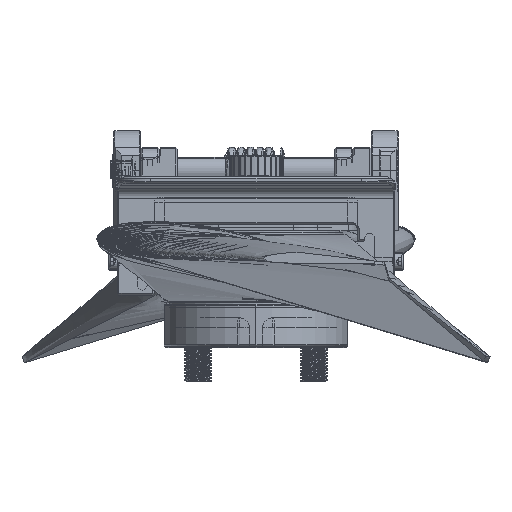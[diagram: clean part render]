
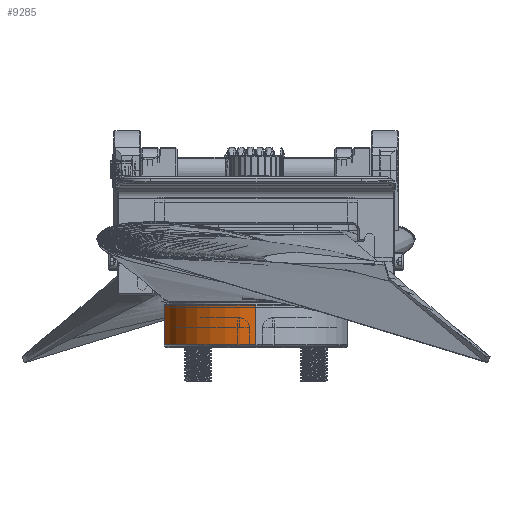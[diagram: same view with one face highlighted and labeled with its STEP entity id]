
A CAD part, left-side view. The second image highlights one B-rep face of the part: STEP entity #9285.
In plain terms, the highlighted cylindrical face has radius 27.5 mm (diameter 55 mm), a partial arc.
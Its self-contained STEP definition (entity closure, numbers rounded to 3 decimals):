
#2472 = CARTESIAN_POINT ( 'NONE',  ( -52.5, 27.5, -12. ) ) ;
#6003 = CARTESIAN_POINT ( 'NONE',  ( -80., 0., -0.3 ) ) ;
#9285 = ADVANCED_FACE ( 'NONE', ( #37408 ), #173644, .T. ) ;
#10791 = DIRECTION ( 'NONE',  ( 0., 0., -1. ) ) ;
#16440 = DIRECTION ( 'NONE',  ( 0., 0., 1. ) ) ;
#17087 = AXIS2_PLACEMENT_3D ( 'NONE', #84546, #102376, #168340 ) ;
#18640 = CARTESIAN_POINT ( 'NONE',  ( -52.5, 0., -12. ) ) ;
#23302 = ORIENTED_EDGE ( 'NONE', *, *, #154862, .T. ) ;
#24608 = CARTESIAN_POINT ( 'NONE',  ( -80., 0., -12. ) ) ;
#35926 = VECTOR ( 'NONE', #81830, 1000. ) ;
#37408 = FACE_OUTER_BOUND ( 'NONE', #82997, .T. ) ;
#42313 = VECTOR ( 'NONE', #10791, 1000. ) ;
#51605 = VERTEX_POINT ( 'NONE', #24608 ) ;
#56606 = EDGE_CURVE ( 'NONE', #68857, #51605, #188232, .T. ) ;
#64321 = AXIS2_PLACEMENT_3D ( 'NONE', #84339, #152501, #123362 ) ;
#68857 = VERTEX_POINT ( 'NONE', #2472 ) ;
#73378 = VERTEX_POINT ( 'NONE', #6003 ) ;
#76588 = ORIENTED_EDGE ( 'NONE', *, *, #56606, .T. ) ;
#81170 = CIRCLE ( 'NONE', #17087, 27.5 ) ;
#81830 = DIRECTION ( 'NONE',  ( 0., 0., -1. ) ) ;
#82997 = EDGE_LOOP ( 'NONE', ( #187632, #23302, #107422, #76588 ) ) ;
#84339 = CARTESIAN_POINT ( 'NONE',  ( -52.5, 0., 0. ) ) ;
#84546 = CARTESIAN_POINT ( 'NONE',  ( -52.5, 0., -0.3 ) ) ;
#91101 = CARTESIAN_POINT ( 'NONE',  ( -52.5, 27.5, -0.3 ) ) ;
#102376 = DIRECTION ( 'NONE',  ( 0., 0., -1. ) ) ;
#107422 = ORIENTED_EDGE ( 'NONE', *, *, #198531, .T. ) ;
#112408 = CARTESIAN_POINT ( 'NONE',  ( -52.5, 27.5, 0. ) ) ;
#123362 = DIRECTION ( 'NONE',  ( -1., 0., 0. ) ) ;
#136517 = LINE ( 'NONE', #152172, #35926 ) ;
#150827 = VERTEX_POINT ( 'NONE', #91101 ) ;
#152172 = CARTESIAN_POINT ( 'NONE',  ( -80., 0., 0. ) ) ;
#152501 = DIRECTION ( 'NONE',  ( 0., 0., -1. ) ) ;
#154862 = EDGE_CURVE ( 'NONE', #73378, #150827, #81170, .T. ) ;
#165082 = EDGE_CURVE ( 'NONE', #73378, #51605, #136517, .T. ) ;
#168340 = DIRECTION ( 'NONE',  ( 1., 0., 0. ) ) ;
#173644 = CYLINDRICAL_SURFACE ( 'NONE', #64321, 27.5 ) ;
#181667 = LINE ( 'NONE', #112408, #42313 ) ;
#187632 = ORIENTED_EDGE ( 'NONE', *, *, #165082, .F. ) ;
#188232 = CIRCLE ( 'NONE', #195420, 27.5 ) ;
#195420 = AXIS2_PLACEMENT_3D ( 'NONE', #18640, #16440, #202981 ) ;
#198531 = EDGE_CURVE ( 'NONE', #150827, #68857, #181667, .T. ) ;
#202981 = DIRECTION ( 'NONE',  ( 1., 0., 0. ) ) ;
